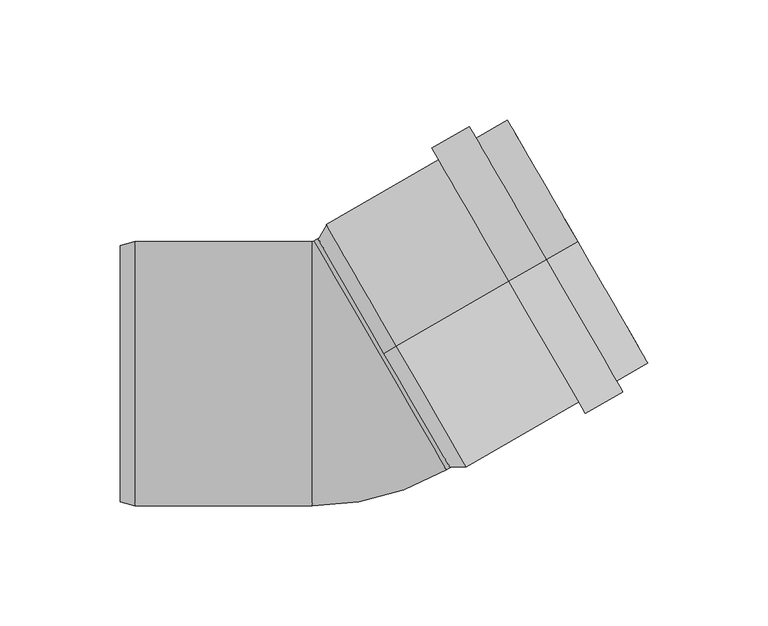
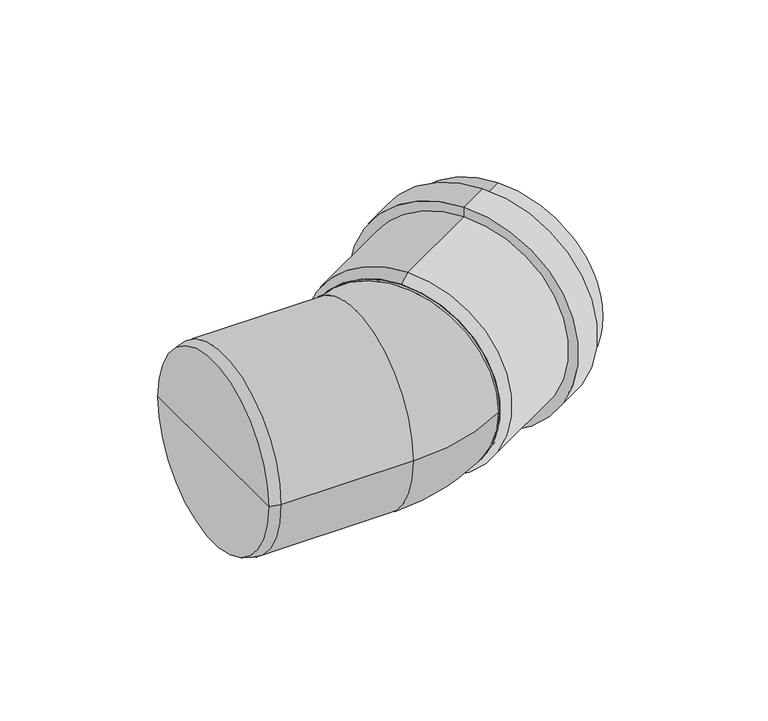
"""IFC4 building model written with IfcOpenShell, lengths in millimetres: pipe fitting geometry, OSMA_KG2000_PPKGB : Koleno 30°."""

import ifcopenshell
import ifcopenshell.guid

model = None  # the IFC model being written
_history = None  # IfcOwnerHistory: only IFC2X3 demands one
_inside = {}  # id of a spatial element -> (the spatial element, [elements in it])
_under = {}  # id of a project, library or spatial element -> (it, [spatial elements below it])
_declared = {}  # id of a project -> (the project, [libraries it declares])
_typed = {}  # id of a type object -> (the type object, [elements of that type])
_made_of = {}  # id of a material, layer set ... -> (it, [elements and type objects made of it])


def new_model(schema):
    """Start an empty IFC model of exactly this schema.

    Asked for "IFC4X3", IfcOpenShell would pick the latest addendum, in which some entities
    have other attributes; the version numbers below select the first issue.
    IFC2X3 requires an IfcOwnerHistory on every rooted entity: one is made here for all.
    """
    global model, _history
    if schema == "IFC4X3":
        model = ifcopenshell.file(schema_version=(4, 3, 0, 0))
    else:
        model = ifcopenshell.file(schema=schema)
    _inside.clear()
    _under.clear()
    _declared.clear()
    _typed.clear()
    _made_of.clear()
    _history = None
    if model.schema == "IFC2X3":
        org = make("IfcOrganization", Name="unknown")
        user = make(
            "IfcPersonAndOrganization",
            ThePerson=make("IfcPerson", FamilyName="unknown"),
            TheOrganization=org,
        )
        app = make(
            "IfcApplication",
            ApplicationDeveloper=org,
            Version="unknown",
            ApplicationFullName="unknown",
            ApplicationIdentifier="unknown",
        )
        _history = make(
            "IfcOwnerHistory",
            OwningUser=user,
            OwningApplication=app,
            ChangeAction="ADDED",
            CreationDate=0,
        )
    return model


def make(cls, **values):
    """One entity of the class cls with the attributes given. An attribute that is None is left unset."""
    return model.create_entity(
        cls, **{name: value for name, value in values.items() if value is not None}
    )


def rooted(cls, **values):
    """An entity with a GlobalId (a new one), such as an element, a storey or a relation."""
    return make(cls, GlobalId=ifcopenshell.guid.new(), OwnerHistory=_history, **values)


def si_unit(unit_type, name, prefix=None):
    """IfcSIUnit, for example si_unit("LENGTHUNIT", "METRE", prefix="MILLI")."""
    return make("IfcSIUnit", UnitType=unit_type, Prefix=prefix, Name=name)


def assignment(units):
    """IfcUnitAssignment: the units of a project."""
    return None if units is None else make("IfcUnitAssignment", Units=units)


def point(xyz):
    """IfcCartesianPoint."""
    return None if xyz is None else make("IfcCartesianPoint", Coordinates=xyz)


def direction(xyz):
    """IfcDirection."""
    return None if xyz is None else make("IfcDirection", DirectionRatios=xyz)


def frame(location, z_axis=None, x_axis=None):
    """IfcAxis2Placement3D, a coordinate frame: its origin and axes. An axis left out is left unset."""
    return make(
        "IfcAxis2Placement3D",
        Location=point(location),
        Axis=direction(z_axis),
        RefDirection=direction(x_axis),
    )


def origin():
    """The frame at (0, 0, 0) with its axes left unset."""
    return frame((0.0, 0.0, 0.0))


def place(relative_to, where):
    """IfcLocalPlacement: puts the frame where relative to a parent placement (None: the world)."""
    return make(
        "IfcLocalPlacement", PlacementRelTo=relative_to, RelativePlacement=where
    )


def context(
    kind, dimensions, precision=None, world=None, true_north=None, identifier=None
):
    """IfcGeometricRepresentationContext, for example the 3D "Model" context."""
    return make(
        "IfcGeometricRepresentationContext",
        ContextIdentifier=identifier,
        ContextType=kind,
        CoordinateSpaceDimension=dimensions,
        Precision=precision,
        WorldCoordinateSystem=world,
        TrueNorth=true_north,
    )


def project(units=None, contexts=None):
    """IfcProject with its units and contexts."""
    return rooted(
        "IfcProject",
        Name="project",
        RepresentationContexts=contexts,
        UnitsInContext=assignment(units),
    )


def spatial(cls, under=None, at=None, **own):
    """A site, building, storey or space (cls), placed at a placement, below another one or the project."""
    s = rooted(cls, ObjectPlacement=at, **own)
    if under is not None:
        _under.setdefault(under.id(), (under, []))[1].append(s)
    return s


def polyline(points):
    """IfcPolyline through the points."""
    return make("IfcPolyline", Points=[point(p) for p in points])


def circle_curve(where, radius):
    """IfcCircle in the frame where."""
    return make("IfcCircle", Position=where, Radius=radius)


def ellipse_curve(where, semi_axis1, semi_axis2):
    """IfcEllipse in the frame where."""
    return make(
        "IfcEllipse", Position=where, SemiAxis1=semi_axis1, SemiAxis2=semi_axis2
    )


def trimmed(basis, trim1, trim2, sense, master):
    """IfcTrimmedCurve: the piece of a basis curve between two trims."""
    return make(
        "IfcTrimmedCurve",
        BasisCurve=basis,
        Trim1=trim1,
        Trim2=trim2,
        SenseAgreement=sense,
        MasterRepresentation=master,
    )


def shape(context_of_items, identifier, shape_type, items):
    """IfcShapeRepresentation: the items that make up one representation, for example the "Body"."""
    return make(
        "IfcShapeRepresentation",
        ContextOfItems=context_of_items,
        RepresentationIdentifier=identifier,
        RepresentationType=shape_type,
        Items=items,
    )


def source(mapping_origin, context_of_items, identifier, shape_type, items):
    """IfcRepresentationMap: a shape defined once, which mapped items show again and again."""
    return make(
        "IfcRepresentationMap",
        MappingOrigin=mapping_origin,
        MappedRepresentation=shape(context_of_items, identifier, shape_type, items),
    )


def transform(
    local_origin,
    x_axis=None,
    y_axis=None,
    z_axis=None,
    scale=None,
    scale2=None,
    scale3=None,
    uniform=True,
):
    """IfcCartesianTransformationOperator3D, or its non-uniform kind. x_axis, y_axis, z_axis: its Axis1, 2, 3."""
    if uniform:
        return make(
            "IfcCartesianTransformationOperator3D",
            Axis1=direction(x_axis),
            Axis2=direction(y_axis),
            LocalOrigin=point(local_origin),
            Scale=scale,
            Axis3=direction(z_axis),
        )
    return make(
        "IfcCartesianTransformationOperator3DnonUniform",
        Axis1=direction(x_axis),
        Axis2=direction(y_axis),
        LocalOrigin=point(local_origin),
        Scale=scale,
        Axis3=direction(z_axis),
        Scale2=scale2,
        Scale3=scale3,
    )


def mapped(mapping_source, mapping_target):
    """IfcMappedItem: shows the shape of a source again, moved by a transform."""
    return make(
        "IfcMappedItem", MappingSource=mapping_source, MappingTarget=mapping_target
    )


def made_of(thing, what):
    """Note that an element or type object is made of a material, layer set ...; save() writes the relation."""
    if what is not None:
        _made_of.setdefault(what.id(), (what, []))[1].append(thing)
    return thing


def element(
    cls,
    number,
    at=None,
    inside=None,
    cuts=None,
    type_object=None,
    material=None,
    context=None,
    identifier="Body",
    shape_type=None,
    held_by="IfcProductDefinitionShape",
    body=None,
    shapes=None,
    **own,
):
    """One element of the class cls, such as IfcWall. Its Tag is "e" and its number.

    at: its placement. inside: the storey or other place that contains it. cuts: it is an
    opening in that element (IfcRelVoidsElement). A single representation is given by context,
    identifier, shape_type and body (its items); several are given by shapes. held_by: the class
    of the entity that holds the representations. save() writes the other relations.
    """
    e = rooted(cls, Tag="e%d" % number, ObjectPlacement=at, **own)
    if body is not None:
        shapes = [shape(context, identifier, shape_type, body)]
    if shapes is not None:
        e.Representation = make(held_by, Representations=shapes)
    if inside is not None:
        _inside.setdefault(inside.id(), (inside, []))[1].append(e)
    if cuts is not None:
        rooted(
            "IfcRelVoidsElement", RelatingBuildingElement=cuts, RelatedOpeningElement=e
        )
    if type_object is not None:
        _typed.setdefault(type_object.id(), (type_object, []))[1].append(e)
    return made_of(e, material)


def aggregate(whole, parts):
    """IfcRelAggregates: a whole, such as a stair, and the parts it consists of."""
    return rooted("IfcRelAggregates", RelatingObject=whole, RelatedObjects=parts)


def save(model, path):
    """Write the relations noted so far, then the file.

    IfcRelAggregates (storeys below a building ...), IfcRelContainedInSpatialStructure (elements
    in a storey), IfcRelDefinesByType, IfcRelAssociatesMaterial and IfcRelDeclares: one each for
    every whole, place, type object, material and project.
    """
    for whole, parts in _under.values():
        aggregate(whole, parts)
    for where, things in _inside.values():
        rooted(
            "IfcRelContainedInSpatialStructure",
            RelatedElements=things,
            RelatingStructure=where,
        )
    for kind, things in _typed.values():
        rooted("IfcRelDefinesByType", RelatedObjects=things, RelatingType=kind)
    for what, things in _made_of.values():
        rooted("IfcRelAssociatesMaterial", RelatedObjects=things, RelatingMaterial=what)
    for by, libraries in _declared.values():
        rooted("IfcRelDeclares", RelatingContext=by, RelatedDefinitions=libraries)
    model.write(path)


def plane_surface(at):
    """IfcPlane: the flat surface through the origin of the frame at, square to its z axis."""
    return make("IfcPlane", Position=at)


def cylinder_surface(at, radius):
    """IfcCylindricalSurface: all points at the distance radius from the z axis of the frame at."""
    return make("IfcCylindricalSurface", Position=at, Radius=radius)


def revolved_surface(curve, axis_point, axis_direction):
    """IfcSurfaceOfRevolution: the curve turned about the line through axis_point along axis_direction."""
    return make(
        "IfcSurfaceOfRevolution",
        SweptCurve=make("IfcArbitraryOpenProfileDef", ProfileType="CURVE", Curve=curve),
        AxisPosition=make("IfcAxis1Placement", Location=point(axis_point), Axis=direction(axis_direction)),
    )


def advanced_brep(points, edges, surfaces, faces):
    """IfcAdvancedBrep: a solid bounded by faces that lie on surfaces and meet in shared edges.

    An edge is (start, end): straight between two places in points (the first is 0);
    or (start, end, curve); or (start, end, curve, False) where it runs against its curve.
    A face is (place in surfaces, loops), or (place, loops, False) where it looks against
    its surface's normal. A loop lists edges by number (the first is 1), with a minus sign
    where the edge is run from its end to its start. The first loop is the outer one.
    """
    corners = [point(p) for p in points]
    vertices = [make("IfcVertexPoint", VertexGeometry=c) for c in corners]
    made = []
    for start, end, *more in edges:
        made.append(
            make(
                "IfcEdgeCurve",
                EdgeStart=vertices[start],
                EdgeEnd=vertices[end],
                EdgeGeometry=more[0] if more else make("IfcPolyline", Points=[corners[start], corners[end]]),
                SameSense=more[1] if len(more) > 1 else True,
            )
        )
    hull = []
    for where, loops, *sense in faces:
        bounds = []
        for j, loop in enumerate(loops):
            ring = [make("IfcOrientedEdge", EdgeElement=made[abs(k) - 1], Orientation=k > 0) for k in loop]
            bounds.append(
                make(
                    "IfcFaceOuterBound" if j == 0 else "IfcFaceBound",
                    Bound=make("IfcEdgeLoop", EdgeList=ring),
                    Orientation=True,
                )
            )
        hull.append(make("IfcAdvancedFace", Bounds=bounds, FaceSurface=surfaces[where], SameSense=sense[0] if sense else True))
    return make("IfcAdvancedBrep", Outer=make("IfcClosedShell", CfsFaces=hull))


def pipe_fitting_1e872b6d(model_context):
    return source(origin(), model_context, "Body", "AdvancedBrep", [
        advanced_brep(
        [(19.9185843, 11.5, 55.0), (19.9185843, 11.5, -55.0), (95.2627944, 55.0, -55.0), (95.2627944, 55.0, 55.0), (66.6839561, 38.5, 58.4), (66.6839561, 38.5, -58.4), (19.9185843, 11.5, -58.4), (19.9185843, 11.5, 58.4), (66.6839561, 38.5, 64.0), (66.6839561, 38.5, -64.0), (82.2724134, 47.5, 64.0), (82.2724134, 47.5, -64.0), (82.2724134, 47.5, 58.4), (82.2724134, 47.5, -58.4), (95.2627944, 55.0, 58.4), (95.2627944, 55.0, -58.4), (14.7224319, 8.5, 51.6), (14.7224319, 8.5, -51.6), (14.7224319, 8.5, 55.0), (14.7224319, 8.5, -55.0)],
        [
            (0, 1, circle_curve(frame((19.9185843, 11.5, 0.0), z_axis=(-0.8660254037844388, -0.4999999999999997, 0.0), x_axis=(0.0, 0.0, -1.0)), 55.0)),
            (1, 2),
            (2, 3, circle_curve(frame((95.2627944, 55.0, 0.0), z_axis=(0.8660254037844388, 0.4999999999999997, 0.0), x_axis=(0.0, 0.0, -1.0)), 55.0)),
            (3, 0),
            (1, 0, circle_curve(frame((19.9185843, 11.5, 0.0), z_axis=(-0.8660254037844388, -0.4999999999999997, 0.0), x_axis=(0.0, 0.0, -1.0)), 55.0)),
            (3, 2, circle_curve(frame((95.2627944, 55.0, 0.0), z_axis=(0.8660254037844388, 0.4999999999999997, 0.0), x_axis=(0.0, 0.0, -1.0)), 55.0)),
            (4, 5, circle_curve(frame((66.6839561, 38.5, 0.0), z_axis=(-0.8660254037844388, -0.4999999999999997, 0.0), x_axis=(0.0, 0.0, -1.0)), 58.4)),
            (5, 6),
            (6, 7, circle_curve(frame((19.9185843, 11.5, 0.0), z_axis=(0.8660254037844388, 0.4999999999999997, 0.0), x_axis=(0.0, 0.0, -1.0)), 58.4)),
            (7, 4),
            (5, 4, circle_curve(frame((66.6839561, 38.5, 0.0), z_axis=(-0.8660254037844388, -0.4999999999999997, 0.0), x_axis=(0.0, 0.0, -1.0)), 58.4)),
            (7, 6, circle_curve(frame((19.9185843, 11.5, 0.0), z_axis=(0.8660254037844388, 0.4999999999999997, 0.0), x_axis=(0.0, 0.0, -1.0)), 58.4)),
            (8, 9, circle_curve(frame((66.6839561, 38.5, 0.0), z_axis=(-0.8660254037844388, -0.4999999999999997, 0.0), x_axis=(0.0, 0.0, -1.0)), 64.0)),
            (9, 5),
            (4, 8),
            (9, 8, circle_curve(frame((66.6839561, 38.5, 0.0), z_axis=(-0.8660254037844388, -0.4999999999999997, 0.0), x_axis=(0.0, 0.0, -1.0)), 64.0)),
            (10, 11, circle_curve(frame((82.2724134, 47.5, 0.0), z_axis=(-0.8660254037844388, -0.4999999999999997, 0.0), x_axis=(0.0, 0.0, -1.0)), 64.0)),
            (11, 9),
            (8, 10),
            (11, 10, circle_curve(frame((82.2724134, 47.5, 0.0), z_axis=(-0.8660254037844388, -0.4999999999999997, 0.0), x_axis=(0.0, 0.0, -1.0)), 64.0)),
            (12, 13, circle_curve(frame((82.2724134, 47.5, 0.0), z_axis=(-0.8660254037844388, -0.4999999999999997, 0.0), x_axis=(0.0, 0.0, -1.0)), 58.4)),
            (13, 11),
            (10, 12),
            (13, 12, circle_curve(frame((82.2724134, 47.5, 0.0), z_axis=(-0.8660254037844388, -0.4999999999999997, 0.0), x_axis=(0.0, 0.0, -1.0)), 58.4)),
            (14, 15, circle_curve(frame((95.2627944, 55.0, 0.0), z_axis=(-0.8660254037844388, -0.4999999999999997, 0.0), x_axis=(0.0, 0.0, -1.0)), 58.4)),
            (15, 13),
            (12, 14),
            (15, 14, circle_curve(frame((95.2627944, 55.0, 0.0), z_axis=(-0.8660254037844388, -0.4999999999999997, 0.0), x_axis=(0.0, 0.0, -1.0)), 58.4)),
            (2, 15),
            (14, 3),
            (16, 17, circle_curve(frame((14.7224319, 8.5, 0.0), z_axis=(-0.8660254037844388, -0.4999999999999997, 0.0), x_axis=(0.0, 0.0, -1.0)), 51.6)),
            (17, 1),
            (0, 16),
            (17, 16, circle_curve(frame((14.7224319, 8.5, 0.0), z_axis=(-0.8660254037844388, -0.4999999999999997, 0.0), x_axis=(0.0, 0.0, -1.0)), 51.6)),
            (18, 19, circle_curve(frame((14.7224319, 8.5, 0.0), z_axis=(-0.8660254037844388, -0.4999999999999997, 0.0), x_axis=(0.0, 0.0, -1.0)), 55.0)),
            (19, 17),
            (16, 18),
            (19, 18, circle_curve(frame((14.7224319, 8.5, 0.0), z_axis=(-0.8660254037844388, -0.4999999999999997, 0.0), x_axis=(0.0, 0.0, -1.0)), 55.0)),
            (6, 19),
            (18, 7),
        ],
        [
            revolved_surface(polyline([(95.26279440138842, 54.99999999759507, -55.0), (19.91858429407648, 11.500000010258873, -55.0)]), (2407.0952835, 1389.7371099, 0.0), (0.8660254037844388, 0.4999999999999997, 0.0)),
            cylinder_surface(frame((2407.0952835, 1389.7371099, 0.0), z_axis=(0.8660254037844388, 0.4999999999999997, 0.0), x_axis=(0.0, 0.0, -1.0)), 58.4),
            plane_surface(frame((66.6839561, 38.5, 0.0), z_axis=(-0.8660254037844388, -0.4999999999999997, 0.0), x_axis=(0.0, 0.0, -1.0))),
            cylinder_surface(frame((2407.0952835, 1389.7371099, 0.0), z_axis=(0.8660254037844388, 0.4999999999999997, 0.0), x_axis=(0.0, 0.0, -1.0)), 64.0),
            plane_surface(frame((82.2724134, 47.5, 0.0), z_axis=(0.8660254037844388, 0.4999999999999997, 0.0), x_axis=(0.0, 0.0, -1.0))),
            plane_surface(frame((95.2627944, 55.0, 0.0), z_axis=(0.8660254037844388, 0.4999999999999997, 0.0), x_axis=(0.0, 0.0, -1.0))),
            revolved_surface(polyline([(19.9185843, 11.5, -55.0), (14.7224319, 8.5, -51.6)]), (2407.0952835, 1389.7371099, 0.0), (0.8660254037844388, 0.4999999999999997, 0.0)),
            plane_surface(frame((14.7224319, 8.5, 0.0), z_axis=(-0.8660254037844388, -0.4999999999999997, 0.0), x_axis=(0.0, 0.0, -1.0))),
            revolved_surface(polyline([(14.7224319, 8.5, -55.0), (19.9185843, 11.5, -58.4)]), (2407.0952835, 1389.7371099, 0.0), (0.8660254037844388, 0.4999999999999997, 0.0)),
        ],
        [
            (0, [[1, 2, 3, 4]]),
            (0, [[5, -4, 6, -2]]),
            (1, [[7, 8, 9, 10]]),
            (1, [[11, -10, 12, -8]]),
            (2, [[13, 14, -7, 15]]),
            (2, [[16, -15, -11, -14]]),
            (3, [[17, 18, -13, 19]]),
            (3, [[20, -19, -16, -18]]),
            (4, [[21, 22, -17, 23]]),
            (4, [[24, -23, -20, -22]]),
            (1, [[25, 26, -21, 27]]),
            (1, [[28, -27, -24, -26]]),
            (5, [[-3, 29, -25, 30]]),
            (5, [[-6, -30, -28, -29]]),
            (6, [[31, 32, -1, 33]]),
            (6, [[34, -33, -5, -32]]),
            (7, [[35, 36, -31, 37]]),
            (7, [[38, -37, -34, -36]]),
            (8, [[-9, 39, -35, 40]]),
            (8, [[-12, -40, -38, -39]]),
        ],
    ),
        advanced_brep(
        [(-14.3891294, 55.2009619, 0.0), (-15.1391294, 55.0, 0.0), (-15.1391294, -55.0, 0.0), (40.6108706, -40.0618325, 0.0), (13.1108706, 7.5695647, 55.0), (13.1108706, 7.5695647, -55.0), (-95.0, 0.0, 0.0), (-95.0, 53.3923048, 0.0), (-95.0, -53.3923048, 0.0), (-89.0, 55.0, 0.0), (-89.0, -55.0, 0.0), (47.4185843, -36.1313972, 0.0), (-7.5814157, 59.1313972, 0.0)],
        [
            (0, 1, circle_curve(frame((-15.1391294, 56.5, 0.0), z_axis=(0.0, 0.0, -1.0), x_axis=(0.0, -1.0, 0.0)), 1.5)),
            (1, 2, circle_curve(frame((-15.1391294, 0.0, 0.0), z_axis=(1.0, 0.0, 0.0), x_axis=(0.0, 1.0, 0.0)), 55.0)),
            (2, 3, circle_curve(frame((-15.1391294, 56.5, 0.0), z_axis=(0.0, 0.0, 1.0), x_axis=(0.0, -1.0, 0.0)), 111.5)),
            (3, 4, circle_curve(frame((13.1108706, 7.5695647, 0.0), z_axis=(-0.8660254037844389, -0.4999999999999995, 0.0), x_axis=(-0.4999999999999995, 0.8660254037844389, 0.0)), 55.0)),
            (4, 0, circle_curve(frame((13.1108706, 7.5695647, 0.0), z_axis=(-0.8660254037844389, -0.4999999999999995, 0.0), x_axis=(-0.4999999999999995, 0.8660254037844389, 0.0)), 55.0)),
            (0, 5, circle_curve(frame((13.1108706, 7.5695647, 0.0), z_axis=(-0.8660254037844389, -0.4999999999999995, 0.0), x_axis=(-0.4999999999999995, 0.8660254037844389, 0.0)), 55.0)),
            (5, 3, circle_curve(frame((13.1108706, 7.5695647, 0.0), z_axis=(-0.866025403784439, -0.49999999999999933, 0.0), x_axis=(-0.49999999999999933, 0.866025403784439, 0.0)), 55.0)),
            (2, 1, circle_curve(frame((-15.1391294, 0.0, 0.0), z_axis=(1.0, 0.0, 0.0), x_axis=(0.0, 1.0, 0.0)), 55.0)),
            (6, 7),
            (7, 8, circle_curve(frame((-95.0, 0.0, 0.0), z_axis=(-1.0, 0.0, 0.0), x_axis=(0.0, 1.0, 0.0)), 53.3923048)),
            (8, 6),
            (8, 7, circle_curve(frame((-95.0, 0.0, 0.0), z_axis=(-1.0, 0.0, 0.0), x_axis=(0.0, 1.0, 0.0)), 53.3923048)),
            (7, 9),
            (9, 10, circle_curve(frame((-89.0, 0.0, 0.0), z_axis=(-1.0, 0.0, 0.0), x_axis=(0.0, 1.0, 0.0)), 55.0)),
            (10, 8),
            (10, 9, circle_curve(frame((-89.0, 0.0, 0.0), z_axis=(-1.0, 0.0, 0.0), x_axis=(0.0, 1.0, 0.0)), 55.0)),
            (9, 1),
            (2, 10),
            (11, 12, circle_curve(frame((19.9185843, 11.5, 0.0), z_axis=(0.8660254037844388, 0.4999999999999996, 0.0), x_axis=(-0.4999999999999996, 0.8660254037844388, 0.0)), 55.0)),
            (12, 11, circle_curve(frame((19.9185843, 11.5, 0.0), z_axis=(0.8660254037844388, 0.4999999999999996, 0.0), x_axis=(-0.4999999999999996, 0.8660254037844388, 0.0)), 55.0)),
            (12, 0),
            (3, 11),
        ],
        [
            revolved_surface(trimmed(ellipse_curve(frame((-15.1391294, 0.0, 0.0), z_axis=(-1.0, 0.0, 0.0), x_axis=(0.0, 1.0, 0.0)), 55.0, 55.0), [point((-15.1391294, -55.0, 0.0))], [point((-15.1391294, 55.0, 0.0))], True, "CARTESIAN"), (-15.1391294, 56.5, 0.0), (0.0, 0.0, 1.0)),
            revolved_surface(trimmed(ellipse_curve(frame((-15.1391294, 0.0, 0.0), z_axis=(-1.0, 0.0, 0.0), x_axis=(0.0, 1.0, 0.0)), 55.0, 55.0), [point((-15.1391294, 55.0, 0.0))], [point((-15.1391294, -55.0, 0.0))], True, "CARTESIAN"), (-15.1391294, 56.5, 0.0), (0.0, 0.0, 1.0)),
            plane_surface(frame((-95.0, 0.0, 0.0), z_axis=(-1.0, 0.0, 0.0), x_axis=(0.0, 1.0, 0.0))),
            revolved_surface(polyline([(-89.0, 55.0, 0.0), (-95.0, 53.3923048, 0.0)]), (331.0587718, 0.0, 0.0), (-1.0, 0.0, 0.0)),
            cylinder_surface(frame((331.0587718, 0.0, 0.0), z_axis=(-1.0, 0.0, 0.0), x_axis=(0.0, 1.0, 0.0)), 55.0),
            plane_surface(frame((19.9185843, 11.5, 0.0), z_axis=(0.8660254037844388, 0.4999999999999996, 0.0), x_axis=(0.0, 0.0, 1.0))),
            cylinder_surface(frame((13.1108706, 7.5695647, 0.0), z_axis=(-0.8660254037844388, -0.4999999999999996, 0.0), x_axis=(-0.4999999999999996, 0.8660254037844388, 0.0)), 55.0),
        ],
        [
            (0, [[1, 2, 3, 4, 5]]),
            (1, [[-1, 6, 7, -3, 8]]),
            (2, [[9, 10, 11]]),
            (2, [[-9, -11, 12]]),
            (3, [[-10, 13, 14, 15]]),
            (3, [[-12, -15, 16, -13]]),
            (4, [[-14, 17, -8, 18]]),
            (4, [[-16, -18, -2, -17]]),
            (5, [[19, 20]]),
            (6, [[-20, 21, -5, -4, 22]]),
            (6, [[-19, -22, -7, -6, -21]]),
        ],
    ),
    ])


if __name__ == "__main__":
    model = new_model("IFC4")
    model_context = context("Model", 3, world=origin())
    ifc_project = project(units=[si_unit("LENGTHUNIT", "METRE", prefix="MILLI")], contexts=[model_context])
    site = spatial("IfcSite", under=ifc_project)
    building = spatial("IfcBuilding", under=site)
    placement = place(None, origin())
    pipe_fitting_shape = pipe_fitting_1e872b6d(model_context)
    element("IfcPipeFitting", 1, ObjectType="OSMA_KG2000_PPKGB : Koleno 30°", at=placement, inside=building, context=model_context, shape_type="MappedRepresentation", body=[
        mapped(pipe_fitting_shape, transform((0.0, 0.0, 0.0), x_axis=(1.0, 0.0, 0.0), y_axis=(0.0, 1.0, 0.0), z_axis=(0.0, 0.0, 1.0))),
    ])
    save(model, "model.ifc")
